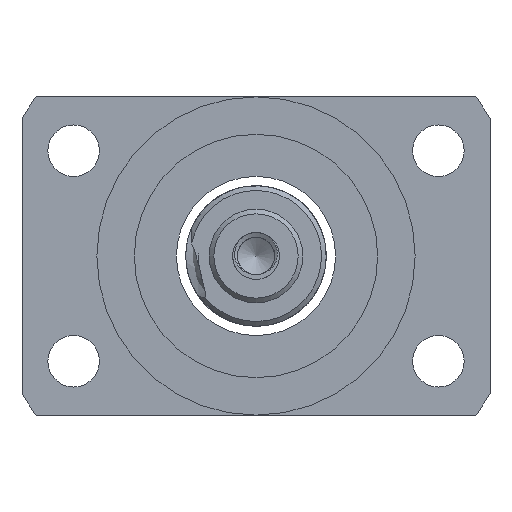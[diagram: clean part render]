
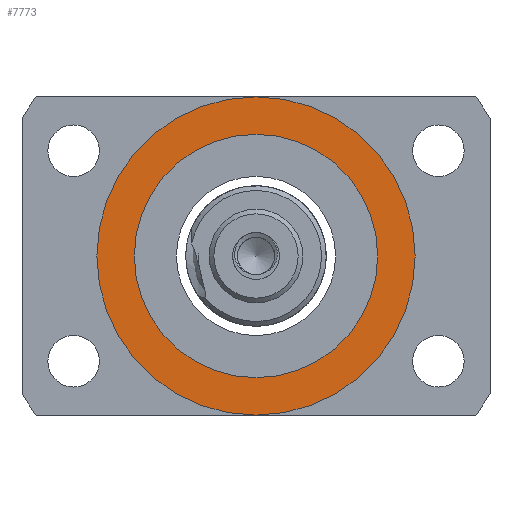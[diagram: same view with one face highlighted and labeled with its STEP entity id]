
A CAD part, left-side view. The second image highlights one B-rep face of the part: STEP entity #7773.
In plain terms, the highlighted planar face has unit normal (-1, 0, 0).
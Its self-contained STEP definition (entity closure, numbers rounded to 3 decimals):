
#345 = FACE_OUTER_BOUND ( 'NONE', #537, .T. ) ;
#537 = EDGE_LOOP ( 'NONE', ( #5449 ) ) ;
#919 = CARTESIAN_POINT ( 'NONE',  ( -130.164, 0., 0. ) ) ;
#1071 = VERTEX_POINT ( 'NONE', #8130 ) ;
#1192 = DIRECTION ( 'NONE',  ( 0., 1., 0. ) ) ;
#1207 = EDGE_LOOP ( 'NONE', ( #9307 ) ) ;
#1344 = DIRECTION ( 'NONE',  ( 0., 0., -1. ) ) ;
#1692 = AXIS2_PLACEMENT_3D ( 'NONE', #4786, #7766, #1192 ) ;
#2758 = EDGE_CURVE ( 'NONE', #1071, #1071, #6984, .T. ) ;
#2906 = DIRECTION ( 'NONE',  ( 1., 0., 0. ) ) ;
#3588 = VERTEX_POINT ( 'NONE', #9212 ) ;
#4786 = CARTESIAN_POINT ( 'NONE',  ( -130.164, 15., 0. ) ) ;
#5166 = AXIS2_PLACEMENT_3D ( 'NONE', #919, #6726, #8065 ) ;
#5449 = ORIENTED_EDGE ( 'NONE', *, *, #7639, .F. ) ;
#5770 = CIRCLE ( 'NONE', #5166, 17. ) ;
#6155 = FACE_BOUND ( 'NONE', #1207, .T. ) ;
#6726 = DIRECTION ( 'NONE',  ( 1., 0., 0. ) ) ;
#6984 = CIRCLE ( 'NONE', #8794, 13. ) ;
#7639 = EDGE_CURVE ( 'NONE', #3588, #3588, #5770, .T. ) ;
#7766 = DIRECTION ( 'NONE',  ( 1., 0., 0. ) ) ;
#7773 = ADVANCED_FACE ( 'NONE', ( #6155, #345 ), #8378, .F. ) ;
#7970 = CARTESIAN_POINT ( 'NONE',  ( -130.164, 0., 0. ) ) ;
#8065 = DIRECTION ( 'NONE',  ( 0., 0., -1. ) ) ;
#8130 = CARTESIAN_POINT ( 'NONE',  ( -130.164, 0., -13. ) ) ;
#8378 = PLANE ( 'NONE',  #1692 ) ;
#8794 = AXIS2_PLACEMENT_3D ( 'NONE', #7970, #2906, #1344 ) ;
#9212 = CARTESIAN_POINT ( 'NONE',  ( -130.164, 0., -17. ) ) ;
#9307 = ORIENTED_EDGE ( 'NONE', *, *, #2758, .T. ) ;
